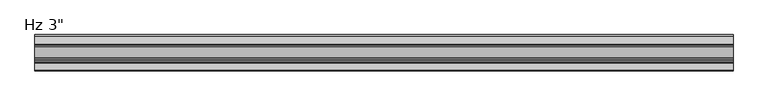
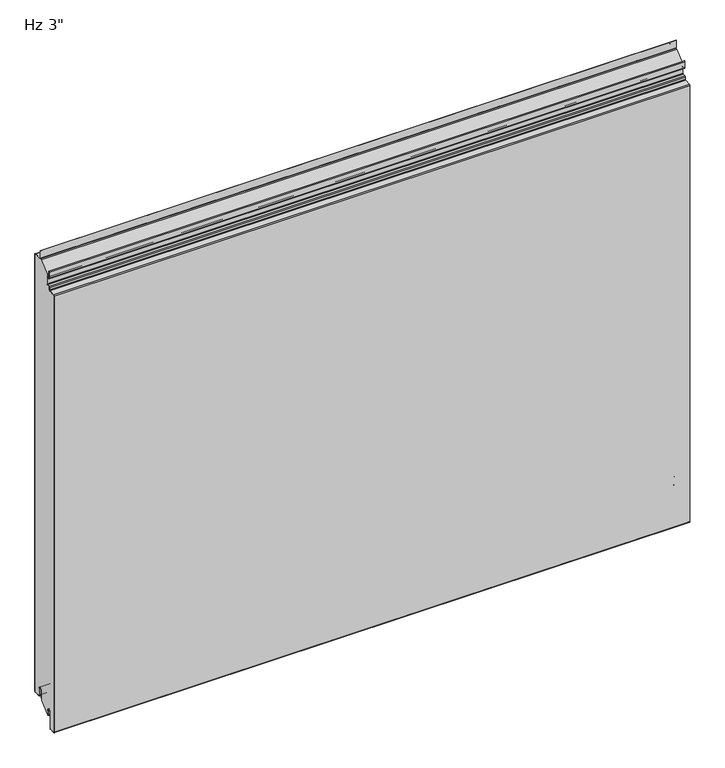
"""IFC4 building model written with IfcOpenShell, lengths in millimetres: plate geometry."""

from ifc_helpers import new_model, si_unit, point, frame, frame_2d, origin, place, context, project, spatial, polyline, circle_curve, ellipse_curve, trimmed, segment, composite_curve, outline, extrude, source, transform, mapped, element, save
from ifc_brep_helpers import plane_surface, cylinder_surface, revolved_surface, extruded_surface, advanced_brep


def plate_1add2ea0(model_context):
    return source(origin(), model_context, "Body", "SolidModel", [
        extrude(outline(composite_curve([segment(trimmed(circle_curve(frame_2d((-21.43125, 19.05)), 4.96875), [point((-16.4625, 19.05))], [point((-26.4, 19.05))], True, "CARTESIAN"), True, "CONTINUOUS"), segment(polyline([(-26.4, 19.05), (-26.4, -3.1323422), (-49.2157227, -23.01875), (-50.8, -23.01875), (-50.8, -13.5080174), (-51.59375, -13.5080174), (-51.3875, -11.9205174)]), True, "CONTINUOUS"), segment(trimmed(circle_curve(frame_2d((-56.35625, -11.9205174)), 4.96875), [point((-51.3875, -11.9205174))], [point((-61.325, -11.9205174))], True, "CARTESIAN"), True, "CONTINUOUS"), segment(polyline([(-61.325, -11.9205174), (-61.325, -50.1038221)]), True, "CONTINUOUS"), segment(trimmed(circle_curve(frame_2d((-62.70625, -50.1038221)), 1.38125), [point((-61.325, -50.1038221))], [point((-62.633961, -51.4831791))], False, "CARTESIAN"), True, "CONTINUOUS"), segment(polyline([(-62.633961, -51.4831791), (-73.746461, -52.0655606)]), True, "CONTINUOUS"), segment(trimmed(circle_curve(frame_2d((-73.81875, -50.6862035)), 1.38125), [point((-73.746461, -52.0655606))], [point((-75.2, -50.6862035))], False, "CARTESIAN"), True, "CONTINUOUS"), segment(polyline([(-75.2, -50.6862035), (-75.2, 1008.1697607)]), True, "CONTINUOUS"), segment(trimmed(circle_curve(frame_2d((-73.81875, 1008.1697607)), 1.38125), [point((-75.2, 1008.1697607))], [point((-73.891039, 1009.5491177))], False, "CARTESIAN"), True, "CONTINUOUS"), segment(polyline([(-73.891039, 1009.5491177), (-60.1895807, 1010.2671807)]), True, "CONTINUOUS"), segment(trimmed(circle_curve(frame_2d((-60.325, 1012.8511347)), 2.5875), [point((-60.1895807, 1010.2671807))], [point((-57.7375, 1012.8511347))], True, "CARTESIAN"), True, "CONTINUOUS"), segment(polyline([(-57.7375, 1012.8511347), (-57.7375, 1017.4824411)]), True, "CONTINUOUS"), segment(trimmed(circle_curve(frame_2d((-56.35625, 1017.4824411)), 1.38125), [point((-57.7375, 1017.4824411))], [point((-56.428539, 1018.8617981))], False, "CARTESIAN"), True, "CONTINUOUS"), segment(polyline([(-56.428539, 1018.8617981), (-50.6645807, 1019.1638744)]), True, "CONTINUOUS"), segment(trimmed(circle_curve(frame_2d((-50.8, 1021.7478283)), 2.5875), [point((-50.6645807, 1019.1638744))], [point((-48.2125, 1021.7478283))], True, "CARTESIAN"), True, "CONTINUOUS"), segment(polyline([(-48.2125, 1021.7478283), (-48.2125, 1044.1892934), (-24.9057308, 1065.00625), (-2.38125, 1065.00625)]), True, "CONTINUOUS"), segment(trimmed(circle_curve(frame_2d((-2.38125, 1063.625)), 1.38125), [point((-2.38125, 1065.00625))], [point((-1.0, 1063.625))], False, "CARTESIAN"), True, "CONTINUOUS"), segment(polyline([(-1.0, 1063.625), (-1.0, 3.175)]), True, "CONTINUOUS"), segment(trimmed(circle_curve(frame_2d((-2.38125, 3.175)), 1.38125), [point((-1.0, 3.175))], [point((-2.38125, 1.79375))], False, "CARTESIAN"), True, "CONTINUOUS"), segment(polyline([(-2.38125, 1.79375), (-15.08125, 1.79375)]), True, "CONTINUOUS"), segment(trimmed(circle_curve(frame_2d((-15.08125, 3.175)), 1.38125), [point((-15.08125, 1.79375))], [point((-16.4625, 3.175))], False, "CARTESIAN"), True, "CONTINUOUS"), segment(polyline([(-16.4625, 3.175), (-16.4625, 19.05)]), True, "CONTINUOUS")], self_intersect=False)), frame((-730.0, 0.0, 0.0), z_axis=(1.0, 0.0, 0.0), x_axis=(0.0, 1.0, 0.0)), (0.0, 0.0, 1.0), 1460.0),
        extrude(outline(composite_curve([segment(polyline([(-25.4, 0.79375), (-26.4, 0.79375), (-26.4, 19.05)]), True, "CONTINUOUS"), segment(trimmed(circle_curve(frame_2d((-21.43125, 19.05)), 4.96875), [point((-26.4, 19.05))], [point((-16.4625, 19.05))], False, "CARTESIAN"), True, "CONTINUOUS"), segment(polyline([(-16.4625, 19.05), (-16.4625, 3.175)]), True, "CONTINUOUS"), segment(trimmed(circle_curve(frame_2d((-15.08125, 3.175)), 1.38125), [point((-16.4625, 3.175))], [point((-15.08125, 1.79375))], True, "CARTESIAN"), True, "CONTINUOUS"), segment(polyline([(-15.08125, 1.79375), (-2.38125, 1.79375)]), True, "CONTINUOUS"), segment(trimmed(circle_curve(frame_2d((-2.38125, 3.175)), 1.38125), [point((-2.38125, 1.79375))], [point((-1.0, 3.175))], True, "CARTESIAN"), True, "CONTINUOUS"), segment(polyline([(-1.0, 3.175), (-1.0, 1063.625)]), True, "CONTINUOUS"), segment(trimmed(circle_curve(frame_2d((-2.38125, 1063.625)), 1.38125), [point((-1.0, 1063.625))], [point((-2.38125, 1065.00625))], True, "CARTESIAN"), True, "CONTINUOUS"), segment(polyline([(-2.38125, 1065.00625), (-19.446875, 1065.00625)]), True, "CONTINUOUS"), segment(trimmed(circle_curve(frame_2d((-19.446875, 1067.59375)), 2.5875), [point((-19.446875, 1065.00625))], [point((-22.034375, 1067.59375))], False, "CARTESIAN"), True, "CONTINUOUS"), segment(polyline([(-22.034375, 1067.59375), (-22.034375, 1085.05625), (-21.034375, 1085.05625), (-21.034375, 1067.59375)]), True, "CONTINUOUS"), segment(trimmed(circle_curve(frame_2d((-19.446875, 1067.59375)), 1.5875), [point((-21.034375, 1067.59375))], [point((-19.446875, 1066.00625))], True, "CARTESIAN"), True, "CONTINUOUS"), segment(polyline([(-19.446875, 1066.00625), (-2.38125, 1066.00625)]), True, "CONTINUOUS"), segment(trimmed(circle_curve(frame_2d((-2.38125, 1063.625)), 2.38125), [point((-2.38125, 1066.00625))], [point((0.0, 1063.625))], False, "CARTESIAN"), True, "CONTINUOUS"), segment(polyline([(0.0, 1063.625), (0.0, 3.175)]), True, "CONTINUOUS"), segment(trimmed(circle_curve(frame_2d((-2.38125, 3.175)), 2.38125), [point((0.0, 3.175))], [point((-2.38125, 0.79375))], False, "CARTESIAN"), True, "CONTINUOUS"), segment(polyline([(-2.38125, 0.79375), (-15.08125, 0.79375)]), True, "CONTINUOUS"), segment(trimmed(circle_curve(frame_2d((-15.08125, 3.175)), 2.38125), [point((-15.08125, 0.79375))], [point((-17.4625, 3.175))], False, "CARTESIAN"), True, "CONTINUOUS"), segment(polyline([(-17.4625, 3.175), (-17.4625, 19.05)]), True, "CONTINUOUS"), segment(trimmed(circle_curve(frame_2d((-21.43125, 19.05)), 3.96875), [point((-17.4625, 19.05))], [point((-25.4, 19.05))], True, "CARTESIAN"), True, "CONTINUOUS"), segment(polyline([(-25.4, 19.05), (-25.4, 0.79375)]), True, "CONTINUOUS")], self_intersect=False)), frame((-730.0, 0.0, 0.0), z_axis=(1.0, 0.0, 0.0), x_axis=(0.0, 1.0, 0.0)), (0.0, 0.0, 1.0), 1460.0),
        advanced_brep(
        [(-730.0, -50.8, -23.2314549), (-730.0, -52.3875, -23.2314549), (-730.0, -52.3875, -11.9205174), (-730.0, -60.325, -11.9205174), (-730.0, -60.325, -50.1038221), (-730.0, -62.581625, -52.4818086), (-730.0, -73.694125, -53.0641901), (-730.0, -76.2, -50.6862035), (-730.0, -76.2, 1008.1697607), (-730.0, -73.943375, 1010.5477473), (-730.0, -60.2419167, 1011.2658103), (-730.0, -58.7375, 1012.8511347), (-730.0, -58.7375, 1017.4824411), (-730.0, -56.480875, 1019.8604276), (-730.0, -50.7169167, 1020.1625039), (-730.0, -49.2125, 1021.7478283), (-730.0, -49.2125, 1036.6232326), (-730.0, -50.8, 1038.2107326), (-730.0, -54.9671875, 1038.2107326), (-730.0, -57.3484375, 1040.5919826), (-730.0, -57.3484375, 1055.0836032), (-730.0, -55.5546875, 1055.0836032), (-730.0, -55.5546875, 1045.3544826), (-730.0, -56.3484375, 1045.3544826), (-730.0, -56.3484375, 1040.5919826), (-730.0, -54.9671875, 1039.2107326), (-730.0, -50.8, 1039.2107326), (-730.0, -48.2125, 1036.6232326), (-730.0, -48.2125, 1021.7478283), (-730.0, -50.6645807, 1019.1638744), (-730.0, -56.428539, 1018.8617981), (-730.0, -57.7375, 1017.4824411), (-730.0, -57.7375, 1012.8511347), (-730.0, -60.1895807, 1010.2671807), (-730.0, -73.891039, 1009.5491177), (-730.0, -75.2, 1008.1697607), (-730.0, -75.2, -50.6862035), (-730.0, -73.746461, -52.0655606), (-730.0, -62.633961, -51.4831791), (-730.0, -61.325, -50.1038221), (-730.0, -61.325, -11.9205174), (-730.0, -51.3875, -11.9205174), (-730.0, -51.59375, -13.5080174), (-730.0, -50.8, -13.5080174), (730.0, -50.8, -23.2314549), (730.0, -50.8, -13.5080174), (730.0, -51.59375, -13.5080174), (730.0, -51.3875, -11.9205174), (730.0, -61.325, -11.9205174), (730.0, -61.325, -50.1038221), (730.0, -62.633961, -51.4831791), (730.0, -73.746461, -52.0655606), (730.0, -75.2, -50.6862035), (730.0, -75.2, 1008.1697607), (730.0, -73.891039, 1009.5491177), (730.0, -60.1895807, 1010.2671807), (730.0, -57.7375, 1012.8511347), (730.0, -57.7375, 1017.4824411), (730.0, -56.428539, 1018.8617981), (730.0, -50.6645807, 1019.1638744), (730.0, -48.2125, 1021.7478283), (730.0, -48.2125, 1036.6232326), (730.0, -50.8, 1039.2107326), (730.0, -54.9671875, 1039.2107326), (730.0, -56.3484375, 1040.5919826), (730.0, -56.3484375, 1045.3544826), (730.0, -55.5546875, 1045.3544826), (730.0, -55.5546875, 1055.0836032), (730.0, -57.3484375, 1055.0836032), (730.0, -57.3484375, 1040.5919826), (730.0, -54.9671875, 1038.2107326), (730.0, -50.8, 1038.2107326), (730.0, -49.2125, 1036.6232326), (730.0, -49.2125, 1021.7478283), (730.0, -50.7169167, 1020.1625039), (730.0, -56.480875, 1019.8604276), (730.0, -58.7375, 1017.4824411), (730.0, -58.7375, 1012.8511347), (730.0, -60.2419167, 1011.2658103), (730.0, -73.943375, 1010.5477473), (730.0, -76.2, 1008.1697607), (730.0, -76.2, -50.6862035), (730.0, -73.694125, -53.0641901), (730.0, -62.581625, -52.4818086), (730.0, -60.325, -50.1038221), (730.0, -60.325, -11.9205174), (730.0, -52.3875, -11.9205174), (730.0, -52.3875, -23.2314549)],
        [
            (0, 1, circle_curve(frame((-730.0, -51.59375, -23.2314549), z_axis=(-1.0, 0.0, 0.0), x_axis=(0.0, 0.0, -1.0)), 0.79375)),
            (1, 2),
            (2, 3, circle_curve(frame((-730.0, -56.35625, -11.9205174), z_axis=(1.0, 0.0, 0.0), x_axis=(0.0, 0.0, -1.0)), 3.96875)),
            (3, 4),
            (4, 5, circle_curve(frame((-730.0, -62.70625, -50.1038221), z_axis=(-1.0, 0.0, 0.0), x_axis=(0.0, 0.0, -1.0)), 2.38125)),
            (5, 6),
            (6, 7, circle_curve(frame((-730.0, -73.81875, -50.6862035), z_axis=(-1.0, 0.0, 0.0), x_axis=(0.0, 0.0, -1.0)), 2.38125)),
            (7, 8),
            (8, 9, circle_curve(frame((-730.0, -73.81875, 1008.1697607), z_axis=(-1.0, 0.0, 0.0), x_axis=(0.0, 0.0, -1.0)), 2.38125)),
            (9, 10),
            (10, 11, circle_curve(frame((-730.0, -60.325, 1012.8511347), z_axis=(1.0, 0.0, 0.0), x_axis=(0.0, 0.0, -1.0)), 1.5875)),
            (11, 12),
            (12, 13, circle_curve(frame((-730.0, -56.35625, 1017.4824411), z_axis=(-1.0, 0.0, 0.0), x_axis=(0.0, 0.0, -1.0)), 2.38125)),
            (13, 14),
            (14, 15, circle_curve(frame((-730.0, -50.8, 1021.7478283), z_axis=(1.0, 0.0, 0.0), x_axis=(0.0, 0.0, -1.0)), 1.5875)),
            (15, 16),
            (16, 17, circle_curve(frame((-730.0, -50.8, 1036.6232326), z_axis=(1.0, 0.0, 0.0), x_axis=(0.0, 0.0, -1.0)), 1.5875)),
            (17, 18),
            (18, 19, circle_curve(frame((-730.0, -54.9671875, 1040.5919826), z_axis=(-1.0, 0.0, 0.0), x_axis=(0.0, 0.0, -1.0)), 2.38125)),
            (19, 20),
            (20, 21, ellipse_curve(frame((-730.0, -56.4515625, 1055.0836032), z_axis=(-1.0, 0.0, 0.0), x_axis=(0.0, 1.0, 0.0)), 0.896875, 0.7852275)),
            (21, 22),
            (22, 23),
            (23, 24),
            (24, 25, circle_curve(frame((-730.0, -54.9671875, 1040.5919826), z_axis=(1.0, 0.0, 0.0), x_axis=(0.0, 0.0, -1.0)), 1.38125)),
            (25, 26),
            (26, 27, circle_curve(frame((-730.0, -50.8, 1036.6232326), z_axis=(-1.0, 0.0, 0.0), x_axis=(0.0, 0.0, -1.0)), 2.5875)),
            (27, 28),
            (28, 29, circle_curve(frame((-730.0, -50.8, 1021.7478283), z_axis=(-1.0, 0.0, 0.0), x_axis=(0.0, 0.0, -1.0)), 2.5875)),
            (29, 30),
            (30, 31, circle_curve(frame((-730.0, -56.35625, 1017.4824411), z_axis=(1.0, 0.0, 0.0), x_axis=(0.0, 0.0, -1.0)), 1.38125)),
            (31, 32),
            (32, 33, circle_curve(frame((-730.0, -60.325, 1012.8511347), z_axis=(-1.0, 0.0, 0.0), x_axis=(0.0, 0.0, -1.0)), 2.5875)),
            (33, 34),
            (34, 35, circle_curve(frame((-730.0, -73.81875, 1008.1697607), z_axis=(1.0, 0.0, 0.0), x_axis=(0.0, 0.0, -1.0)), 1.38125)),
            (35, 36),
            (36, 37, circle_curve(frame((-730.0, -73.81875, -50.6862035), z_axis=(1.0, 0.0, 0.0), x_axis=(0.0, 0.0, -1.0)), 1.38125)),
            (37, 38),
            (38, 39, circle_curve(frame((-730.0, -62.70625, -50.1038221), z_axis=(1.0, 0.0, 0.0), x_axis=(0.0, 0.0, -1.0)), 1.38125)),
            (39, 40),
            (40, 41, circle_curve(frame((-730.0, -56.35625, -11.9205174), z_axis=(-1.0, 0.0, 0.0), x_axis=(0.0, 0.0, -1.0)), 4.96875)),
            (41, 42),
            (42, 43),
            (43, 0),
            (44, 45),
            (45, 46),
            (46, 47),
            (47, 48, circle_curve(frame((730.0, -56.35625, -11.9205174), z_axis=(1.0, 0.0, 0.0), x_axis=(0.0, 0.0, -1.0)), 4.96875)),
            (48, 49),
            (49, 50, circle_curve(frame((730.0, -62.70625, -50.1038221), z_axis=(-1.0, 0.0, 0.0), x_axis=(0.0, 0.0, -1.0)), 1.38125)),
            (50, 51),
            (51, 52, circle_curve(frame((730.0, -73.81875, -50.6862035), z_axis=(-1.0, 0.0, 0.0), x_axis=(0.0, 0.0, -1.0)), 1.38125)),
            (52, 53),
            (53, 54, circle_curve(frame((730.0, -73.81875, 1008.1697607), z_axis=(-1.0, 0.0, 0.0), x_axis=(0.0, 0.0, -1.0)), 1.38125)),
            (54, 55),
            (55, 56, circle_curve(frame((730.0, -60.325, 1012.8511347), z_axis=(1.0, 0.0, 0.0), x_axis=(0.0, 0.0, -1.0)), 2.5875)),
            (56, 57),
            (57, 58, circle_curve(frame((730.0, -56.35625, 1017.4824411), z_axis=(-1.0, 0.0, 0.0), x_axis=(0.0, 0.0, -1.0)), 1.38125)),
            (58, 59),
            (59, 60, circle_curve(frame((730.0, -50.8, 1021.7478283), z_axis=(1.0, 0.0, 0.0), x_axis=(0.0, 0.0, -1.0)), 2.5875)),
            (60, 61),
            (61, 62, circle_curve(frame((730.0, -50.8, 1036.6232326), z_axis=(1.0, 0.0, 0.0), x_axis=(0.0, 0.0, -1.0)), 2.5875)),
            (62, 63),
            (63, 64, circle_curve(frame((730.0, -54.9671875, 1040.5919826), z_axis=(-1.0, 0.0, 0.0), x_axis=(0.0, 0.0, -1.0)), 1.38125)),
            (64, 65),
            (65, 66),
            (66, 67),
            (67, 68, ellipse_curve(frame((730.0, -56.4515625, 1055.0836032), z_axis=(1.0, 0.0, 0.0), x_axis=(0.0, 1.0, 0.0)), 0.896875, 0.7852275)),
            (68, 69),
            (69, 70, circle_curve(frame((730.0, -54.9671875, 1040.5919826), z_axis=(1.0, 0.0, 0.0), x_axis=(0.0, 0.0, -1.0)), 2.38125)),
            (70, 71),
            (71, 72, circle_curve(frame((730.0, -50.8, 1036.6232326), z_axis=(-1.0, 0.0, 0.0), x_axis=(0.0, 0.0, -1.0)), 1.5875)),
            (72, 73),
            (73, 74, circle_curve(frame((730.0, -50.8, 1021.7478283), z_axis=(-1.0, 0.0, 0.0), x_axis=(0.0, 0.0, -1.0)), 1.5875)),
            (74, 75),
            (75, 76, circle_curve(frame((730.0, -56.35625, 1017.4824411), z_axis=(1.0, 0.0, 0.0), x_axis=(0.0, 0.0, -1.0)), 2.38125)),
            (76, 77),
            (77, 78, circle_curve(frame((730.0, -60.325, 1012.8511347), z_axis=(-1.0, 0.0, 0.0), x_axis=(0.0, 0.0, -1.0)), 1.5875)),
            (78, 79),
            (79, 80, circle_curve(frame((730.0, -73.81875, 1008.1697607), z_axis=(1.0, 0.0, 0.0), x_axis=(0.0, 0.0, -1.0)), 2.38125)),
            (80, 81),
            (81, 82, circle_curve(frame((730.0, -73.81875, -50.6862035), z_axis=(1.0, 0.0, 0.0), x_axis=(0.0, 0.0, -1.0)), 2.38125)),
            (82, 83),
            (83, 84, circle_curve(frame((730.0, -62.70625, -50.1038221), z_axis=(1.0, 0.0, 0.0), x_axis=(0.0, 0.0, -1.0)), 2.38125)),
            (84, 85),
            (85, 86, circle_curve(frame((730.0, -56.35625, -11.9205174), z_axis=(-1.0, 0.0, 0.0), x_axis=(0.0, 0.0, -1.0)), 3.96875)),
            (86, 87),
            (87, 44, circle_curve(frame((730.0, -51.59375, -23.2314549), z_axis=(1.0, 0.0, 0.0), x_axis=(0.0, 0.0, -1.0)), 0.79375)),
            (36, 52),
            (51, 37),
            (50, 38),
            (49, 39),
            (48, 40),
            (47, 41),
            (42, 46),
            (45, 43),
            (22, 66),
            (65, 23),
            (21, 67),
            (20, 68),
            (34, 54),
            (53, 35),
            (32, 56),
            (55, 33),
            (30, 58),
            (57, 31),
            (28, 60),
            (59, 29),
            (24, 64),
            (63, 25),
            (26, 62),
            (61, 27),
            (19, 69),
            (17, 71),
            (70, 18),
            (15, 73),
            (72, 16),
            (13, 75),
            (74, 14),
            (11, 77),
            (76, 12),
            (9, 79),
            (78, 10),
            (7, 81),
            (80, 8),
            (5, 83),
            (82, 6),
            (3, 85),
            (84, 4),
            (1, 87),
            (86, 2),
            (44, 0),
        ],
        [
            plane_surface(frame((-730.0, -76.2, 533.4), z_axis=(-1.0, 0.0, 0.0), x_axis=(0.0, -1.0, 0.0))),
            plane_surface(frame((730.0, -76.2, 533.4), z_axis=(1.0, 0.0, 0.0), x_axis=(0.0, -1.0, 0.0))),
            revolved_surface(polyline([(730.0, -73.81875, -52.0674535), (-730.0, -73.81875, -52.0674535)]), (-730.0, -73.81875, -50.6862035), (1.0, 0.0, 0.0)),
            plane_surface(frame((-730.0, -62.633961, -51.4831791), z_axis=(0.0, -0.05233595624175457, 0.9986295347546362), x_axis=(1.0, 0.0, 0.0))),
            revolved_surface(polyline([(730.0, -62.70625, -51.485072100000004), (-730.0, -62.70625, -51.485072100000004)]), (-730.0, -62.70625, -50.1038221), (1.0, 0.0, 0.0)),
            plane_surface(frame((-730.0, -61.325, -11.9205174), z_axis=(0.0, -1.0, 0.0), x_axis=(1.0, 0.0, 0.0))),
            cylinder_surface(frame((-730.0, -56.35625, -11.9205174), z_axis=(-1.0, 0.0, 0.0), x_axis=(0.0, 0.0, -1.0)), 4.96875),
            plane_surface(frame((-730.0, -50.8, -13.5080174), z_axis=(0.0, 0.0, 1.0), x_axis=(1.0, 0.0, 0.0))),
            plane_surface(frame((-730.0, -51.59375, -13.5080174), z_axis=(0.0, 0.9916655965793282, -0.1288384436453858), x_axis=(1.0, 0.0, 0.0))),
            plane_surface(frame((-730.0, -56.3484375, 1045.3544826), z_axis=(0.0, 0.0, -1.0), x_axis=(1.0, 0.0, 0.0))),
            plane_surface(frame((-730.0, -55.5546875, 1045.3544826), z_axis=(0.0, 1.0, 0.0), x_axis=(1.0, 0.0, 0.0))),
            extruded_surface(trimmed(ellipse_curve(frame((-730.0, -56.4515625, 1055.0836032), z_axis=(1.0, 0.0, 0.0), x_axis=(0.0, 1.0, 0.0)), 0.896875, 0.7852275), [point((-730.0, -55.5546875, 1055.0836032))], [point((-730.0, -57.3484375, 1055.0836032))], True, "CARTESIAN"), (1460.0, 0.0, 0.0), 1460.0),
            revolved_surface(polyline([(730.0, -73.81875, 1006.7885107), (-730.0, -73.81875, 1006.7885107)]), (-730.0, -73.81875, 1008.1697607), (1.0, 0.0, 0.0)),
            cylinder_surface(frame((-730.0, -60.325, 1012.8511347), z_axis=(-1.0, 0.0, 0.0), x_axis=(0.0, 0.0, -1.0)), 2.5875),
            plane_surface(frame((-730.0, -73.891039, 1009.5491177), z_axis=(0.0, 0.05233595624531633, -0.9986295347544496), x_axis=(1.0, 0.0, 0.0))),
            plane_surface(frame((-730.0, -75.2, -50.6862035), z_axis=(0.0, 1.0, 0.0), x_axis=(1.0, 0.0, 0.0))),
            revolved_surface(polyline([(730.0, -56.35625, 1016.1011910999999), (-730.0, -56.35625, 1016.1011910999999)]), (-730.0, -56.35625, 1017.4824411), (1.0, 0.0, 0.0)),
            cylinder_surface(frame((-730.0, -50.8, 1021.7478283), z_axis=(-1.0, 0.0, 0.0), x_axis=(0.0, 0.0, -1.0)), 2.5875),
            plane_surface(frame((-730.0, -56.428539, 1018.8617981), z_axis=(0.0, 0.052335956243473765, -0.9986295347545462), x_axis=(1.0, 0.0, 0.0))),
            plane_surface(frame((-730.0, -57.7375, 1012.8511347), z_axis=(0.0, 1.0, 0.0), x_axis=(1.0, 0.0, 0.0))),
            revolved_surface(polyline([(730.0, -54.9671875, 1039.2107326), (-730.0, -54.9671875, 1039.2107326)]), (-730.0, -54.9671875, 1040.5919826), (1.0, 0.0, 0.0)),
            cylinder_surface(frame((-730.0, -50.8, 1036.6232326), z_axis=(-1.0, 0.0, 0.0), x_axis=(0.0, 0.0, -1.0)), 2.5875),
            plane_surface(frame((-730.0, -50.8, 1039.2107326), z_axis=(0.0, 0.0, 1.0), x_axis=(1.0, 0.0, 0.0))),
            plane_surface(frame((-730.0, -56.3484375, 1040.5919826), z_axis=(0.0, 1.0, 0.0), x_axis=(1.0, 0.0, 0.0))),
            plane_surface(frame((-730.0, -57.3484375, 1055.0836032), z_axis=(0.0, -1.0, 0.0), x_axis=(1.0, 0.0, 0.0))),
            plane_surface(frame((-730.0, -54.9671875, 1038.2107326), z_axis=(0.0, 0.0, -1.0), x_axis=(1.0, 0.0, 0.0))),
            cylinder_surface(frame((-730.0, -54.9671875, 1040.5919826), z_axis=(-1.0, 0.0, 0.0), x_axis=(0.0, 0.0, -1.0)), 2.38125),
            plane_surface(frame((-730.0, -48.2125, 1021.7478283), z_axis=(0.0, 1.0, 0.0), x_axis=(1.0, 0.0, 0.0))),
            plane_surface(frame((-730.0, -49.2125, 1036.6232326), z_axis=(0.0, -1.0, 0.0), x_axis=(1.0, 0.0, 0.0))),
            plane_surface(frame((-730.0, -50.7169167, 1020.1625039), z_axis=(0.0, -0.05233595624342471, 0.9986295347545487), x_axis=(1.0, 0.0, 0.0))),
            revolved_surface(polyline([(730.0, -50.8, 1020.1603283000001), (-730.0, -50.8, 1020.1603283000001)]), (-730.0, -50.8, 1021.7478283), (1.0, 0.0, 0.0)),
            revolved_surface(polyline([(730.0, -50.8, 1035.0357325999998), (-730.0, -50.8, 1035.0357325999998)]), (-730.0, -50.8, 1036.6232326), (1.0, 0.0, 0.0)),
            plane_surface(frame((-730.0, -58.7375, 1017.4824411), z_axis=(0.0, -1.0, 0.0), x_axis=(1.0, 0.0, 0.0))),
            plane_surface(frame((-730.0, -60.2419167, 1011.2658103), z_axis=(0.0, -0.05233595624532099, 0.9986295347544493), x_axis=(1.0, 0.0, 0.0))),
            revolved_surface(polyline([(730.0, -60.325, 1011.2636347), (-730.0, -60.325, 1011.2636347)]), (-730.0, -60.325, 1012.8511347), (1.0, 0.0, 0.0)),
            cylinder_surface(frame((-730.0, -56.35625, 1017.4824411), z_axis=(-1.0, 0.0, 0.0), x_axis=(0.0, 0.0, -1.0)), 2.38125),
            plane_surface(frame((-730.0, -76.2, 1008.1697607), z_axis=(0.0, -1.0, 0.0), x_axis=(1.0, 0.0, 0.0))),
            plane_surface(frame((-730.0, -73.694125, -53.0641901), z_axis=(0.0, 0.05233595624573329, -0.9986295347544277), x_axis=(1.0, 0.0, 0.0))),
            cylinder_surface(frame((-730.0, -73.81875, -50.6862035), z_axis=(-1.0, 0.0, 0.0), x_axis=(0.0, 0.0, -1.0)), 2.38125),
            cylinder_surface(frame((-730.0, -73.81875, 1008.1697607), z_axis=(-1.0, 0.0, 0.0), x_axis=(0.0, 0.0, -1.0)), 2.38125),
            plane_surface(frame((-730.0, -60.325, -50.1038221), z_axis=(0.0, 1.0, 0.0), x_axis=(1.0, 0.0, 0.0))),
            plane_surface(frame((-730.0, -52.3875, -11.9205174), z_axis=(0.0, -1.0, 0.0), x_axis=(1.0, 0.0, 0.0))),
            revolved_surface(polyline([(730.0, -56.35625, -15.8892674), (-730.0, -56.35625, -15.8892674)]), (-730.0, -56.35625, -11.9205174), (1.0, 0.0, 0.0)),
            cylinder_surface(frame((-730.0, -62.70625, -50.1038221), z_axis=(-1.0, 0.0, 0.0), x_axis=(0.0, 0.0, -1.0)), 2.38125),
            plane_surface(frame((-730.0, -50.8, -23.2314549), z_axis=(0.0, 1.0, 0.0), x_axis=(1.0, 0.0, 0.0))),
            cylinder_surface(frame((-730.0, -51.59375, -23.2314549), z_axis=(-1.0, 0.0, 0.0), x_axis=(0.0, 0.0, -1.0)), 0.79375),
        ],
        [
            (0, [[1, 2, 3, 4, 5, 6, 7, 8, 9, 10, 11, 12, 13, 14, 15, 16, 17, 18, 19, 20, 21, 22, 23, 24, 25, 26, 27, 28, 29, 30, 31, 32, 33, 34, 35, 36, 37, 38, 39, 40, 41, 42, 43, 44]]),
            (1, [[45, 46, 47, 48, 49, 50, 51, 52, 53, 54, 55, 56, 57, 58, 59, 60, 61, 62, 63, 64, 65, 66, 67, 68, 69, 70, 71, 72, 73, 74, 75, 76, 77, 78, 79, 80, 81, 82, 83, 84, 85, 86, 87, 88]]),
            (2, [[89, -52, 90, -37]]),
            (3, [[-90, -51, 91, -38]]),
            (4, [[-91, -50, 92, -39]]),
            (5, [[-92, -49, 93, -40]]),
            (6, [[-93, -48, 94, -41]]),
            (7, [[95, -46, 96, -43]]),
            (8, [[-94, -47, -95, -42]]),
            (9, [[97, -66, 98, -23]]),
            (10, [[99, -67, -97, -22]]),
            (11, [[100, -68, -99, -21]]),
            (12, [[101, -54, 102, -35]]),
            (13, [[103, -56, 104, -33]]),
            (14, [[-104, -55, -101, -34]]),
            (15, [[-102, -53, -89, -36]]),
            (16, [[105, -58, 106, -31]]),
            (17, [[107, -60, 108, -29]]),
            (18, [[-108, -59, -105, -30]]),
            (19, [[-106, -57, -103, -32]]),
            (20, [[109, -64, 110, -25]]),
            (21, [[111, -62, 112, -27]]),
            (22, [[-110, -63, -111, -26]]),
            (23, [[-98, -65, -109, -24]]),
            (24, [[113, -69, -100, -20]]),
            (25, [[114, -71, 115, -18]]),
            (26, [[-115, -70, -113, -19]]),
            (27, [[-112, -61, -107, -28]]),
            (28, [[116, -73, 117, -16]]),
            (29, [[118, -75, 119, -14]]),
            (30, [[-119, -74, -116, -15]]),
            (31, [[-117, -72, -114, -17]]),
            (32, [[120, -77, 121, -12]]),
            (33, [[122, -79, 123, -10]]),
            (34, [[-123, -78, -120, -11]]),
            (35, [[-121, -76, -118, -13]]),
            (36, [[124, -81, 125, -8]]),
            (37, [[126, -83, 127, -6]]),
            (38, [[-127, -82, -124, -7]]),
            (39, [[-125, -80, -122, -9]]),
            (40, [[128, -85, 129, -4]]),
            (41, [[130, -87, 131, -2]]),
            (42, [[-131, -86, -128, -3]]),
            (43, [[-129, -84, -126, -5]]),
            (44, [[-96, -45, 132, -44]]),
            (45, [[-132, -88, -130, -1]]),
        ],
    ),
    ])


if __name__ == "__main__":
    model = new_model("IFC4")
    model_context = context("Model", 3, world=origin())
    ifc_project = project(units=[si_unit("LENGTHUNIT", "METRE", prefix="MILLI")], contexts=[model_context])
    site = spatial("IfcSite", under=ifc_project)
    building = spatial("IfcBuilding", under=site)
    placement = place(None, origin())
    plate_shape = plate_1add2ea0(model_context)
    element("IfcPlate", 1, ObjectType="KIP-42-DWTR-R19-CP-Hz-F : Hz 3\"", at=placement, inside=building, context=model_context, shape_type="MappedRepresentation", body=[
        mapped(plate_shape, transform((0.0, 0.0, 0.0), x_axis=(1.0, 0.0, 0.0), y_axis=(0.0, 1.0, 0.0), z_axis=(0.0, 0.0, 1.0))),
    ])
    save(model, "model.ifc")
